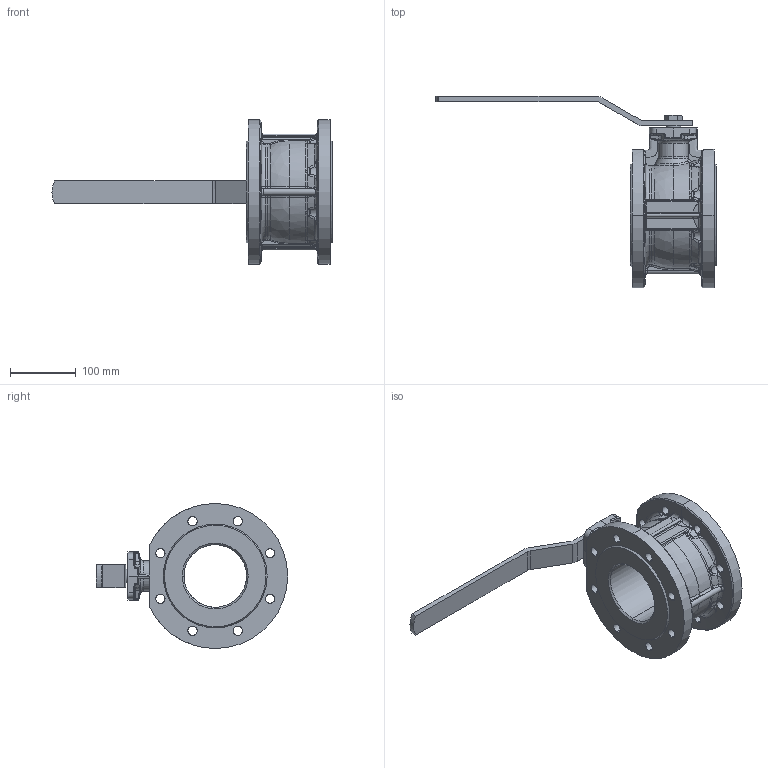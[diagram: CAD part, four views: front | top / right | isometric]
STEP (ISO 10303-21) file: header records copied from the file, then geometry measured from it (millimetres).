
FILE_DESCRIPTION (( 'STEP AP203' ), '1' );
FILE_NAME ('B1_100.STEP', '2012-06-11T15:00:57', ( ' ' ), ( '' ), 'SwSTEP 2.0', 'SolidWorks 2009', '' );
FILE_SCHEMA (( 'CONFIG_CONTROL_DESIGN' ));
Length unit declared in the file: millimetre
Products named in the file (1): B1_100
Bounding box: 425 x 290.5 x 220 mm (x, y, z)
Volume: 2605241.5 mm3; surface area: 264740.7 mm2
Topology: 1 solids, 3 shells, 584 faces, 1437 edges, 858 vertices
Faces by surface type: bspline 222, cylinder 142, plane 83, cone 64, torus 61, sphere 12
Entity records: 27863 total; most frequent: CARTESIAN_POINT 15862, ORIENTED_EDGE 2858, DIRECTION 2016, EDGE_CURVE 1429, AXIS2_PLACEMENT_3D 868, VERTEX_POINT 858, EDGE_LOOP 633, B_SPLINE_CURVE_WITH_KNOTS 596
